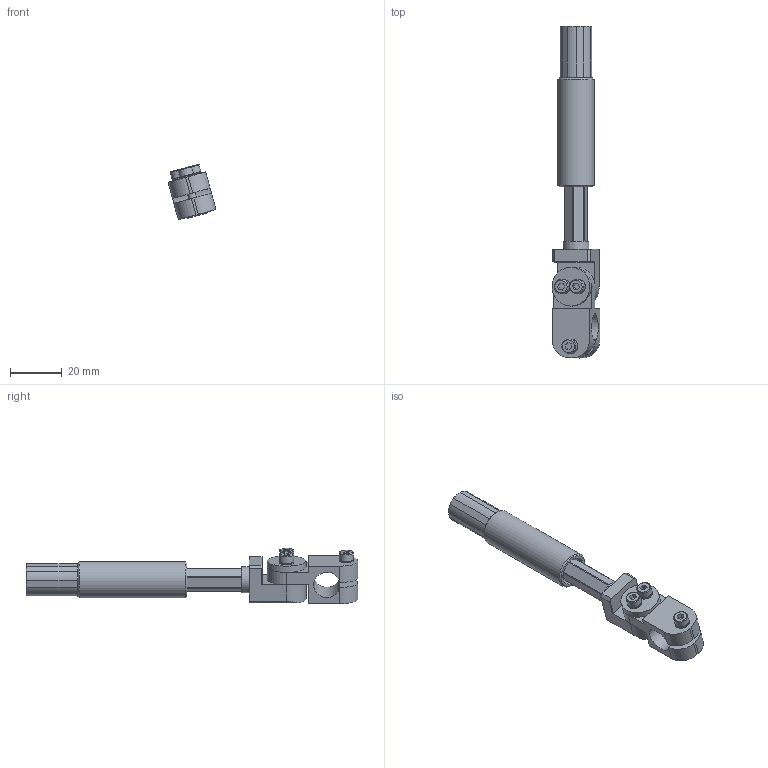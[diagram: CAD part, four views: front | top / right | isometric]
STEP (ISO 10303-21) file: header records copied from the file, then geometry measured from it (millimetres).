
FILE_DESCRIPTION(('STEP AP214'),'1');
FILE_NAME('CA.SMN.142010.stp','2019-02-22T07:28:10',(' '),(' '),'Spatial InterOp 3D',' ',' ');
FILE_SCHEMA(('AUTOMOTIVE_DESIGN { 1 0 10303 214 1 1 1 1 }'));
Length unit declared in the file: millimetre
Products named in the file (11): CA.SMN.142010; V.TCE3x16; R.3.SCH; VSN.1420.2.1; VSN.1420.3; GVR.10.2; GVR.10.3; GRZ.142010.1; VSN.14.1; M.8.45X34; VSN.1420.4
Assembly tree (14 placements, depth 2):
  CA.SMN.142010
    V.TCE3x16  x3
    R.3.SCH  x3
    VSN.1420.2.1
    VSN.1420.3
    GVR.10.2
    GVR.10.3
    GRZ.142010.1
    VSN.14.1
    M.8.45X34
    VSN.1420.4
Bounding box: 18.4 x 128 x 21.35 mm (x, y, z)
Volume: 14832.7 mm3; surface area: 14198.5 mm2
Topology: 14 solids, 14 shells, 760 faces, 2237 edges, 1512 vertices
Faces by surface type: plane 668, cylinder 65, cone 20, torus 6, bspline 1
Full cylindrical faces by diameter (mm): 2.5 x2, 2.7 x1, 3 x3, 3.2 x3, 3.5 x3, 4 x2, 5 x2, 5.5 x6, 6 x2, 6.9 x2, 7.2 x1, 8.566 x1, 9.5 x1, 9.9 x1, 10 x1, 10.1 x1, 11 x2, 14 x1, 15 x1
Entity records: 16481 total; most frequent: CARTESIAN_POINT 4620, DIRECTION 1903, ORIENTED_EDGE 1796, EDGE_CURVE 898, AXIS2_PLACEMENT_3D 675, VERTEX_POINT 631, LINE 553, VECTOR 553
